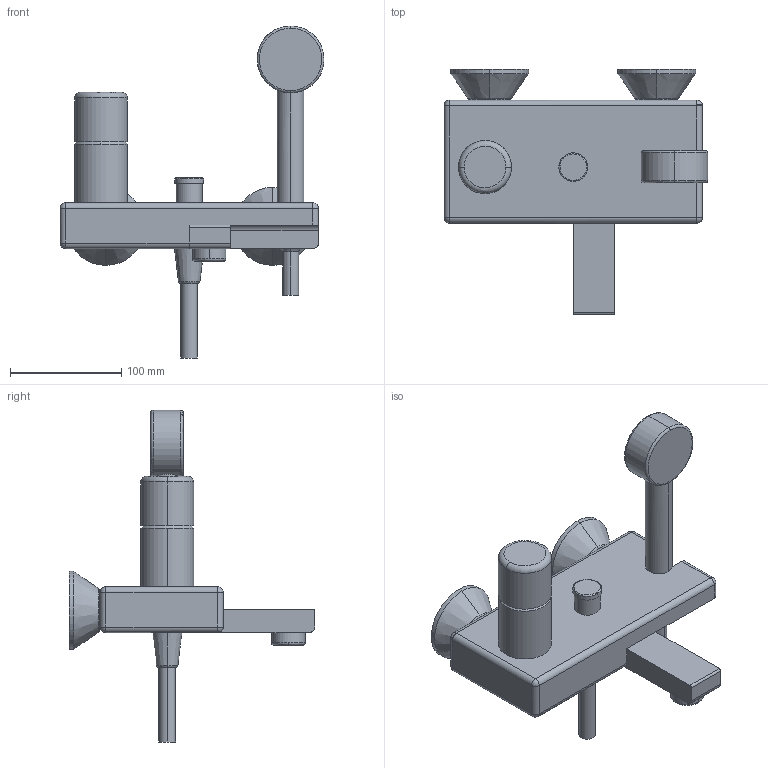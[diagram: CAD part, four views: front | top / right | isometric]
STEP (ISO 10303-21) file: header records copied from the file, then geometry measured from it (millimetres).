
FILE_DESCRIPTION (( 'STEP AP203' ), '1' );
FILE_NAME ('8545.STEP', '2018-08-14T12:15:02', ( '' ), ( '' ), 'SwSTEP 2.0', 'SolidWorks 2016', '' );
FILE_SCHEMA (( 'CONFIG_CONTROL_DESIGN' ));
Length unit declared in the file: millimetre
Products named in the file (1): 8545
Bounding box: 237 x 220.5 x 298.11 mm (x, y, z)
Volume: 1416002.9 mm3; surface area: 157319 mm2
Topology: 2 solids, 2 shells, 125 faces, 329 edges, 215 vertices
Faces by surface type: cylinder 49, plane 31, torus 20, cone 16, sphere 9
Entity records: 7413 total; most frequent: CARTESIAN_POINT 4378, ORIENTED_EDGE 628, DIRECTION 609, EDGE_CURVE 314, AXIS2_PLACEMENT_3D 251, VERTEX_POINT 205, EDGE_LOOP 137, CIRCLE 125
